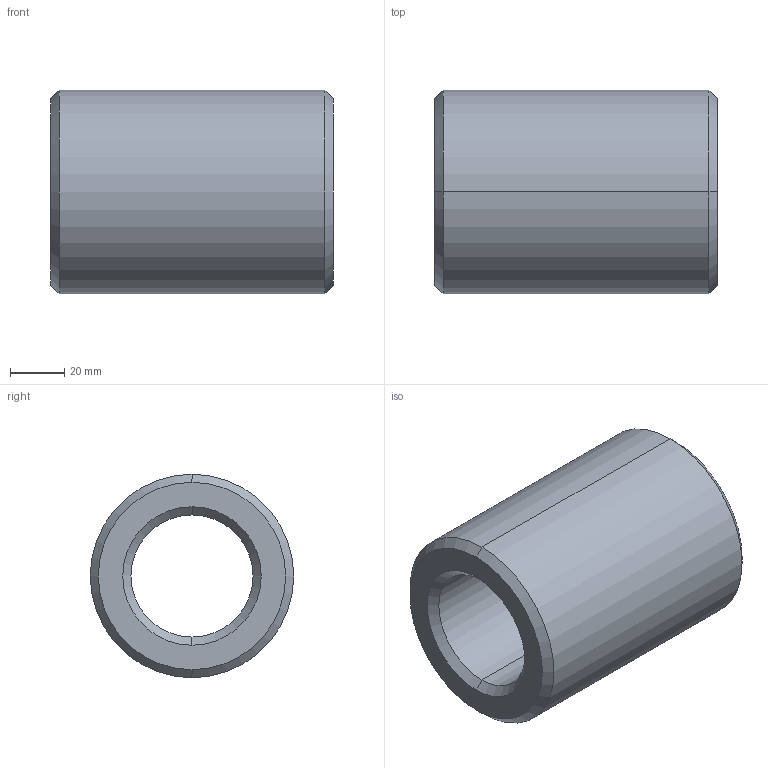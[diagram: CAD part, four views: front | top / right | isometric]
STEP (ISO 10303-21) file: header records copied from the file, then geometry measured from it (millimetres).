
FILE_DESCRIPTION (( 'STEP AP203' ), '1' );
FILE_NAME ('Muffe M48.STEP', '2018-02-22T09:23:05', ( 'install' ), ( 'Hewlett-Packard Company' ), 'SwSTEP 2.0', 'SolidWorks 2017', '' );
FILE_SCHEMA (( 'CONFIG_CONTROL_DESIGN' ));
Length unit declared in the file: millimetre
Products named in the file (1): Muffe M48
Bounding box: 104 x 75 x 75 mm (x, y, z)
Volume: 290660.2 mm3; surface area: 43536.9 mm2
Topology: 1 solids, 1 shells, 14 faces, 28 edges, 16 vertices
Faces by surface type: cone 8, cylinder 4, plane 2
Entity records: 445 total; most frequent: DIRECTION 74, CARTESIAN_POINT 59, ORIENTED_EDGE 56, AXIS2_PLACEMENT_3D 31, EDGE_CURVE 28, VERTEX_POINT 16, CIRCLE 16, EDGE_LOOP 16
